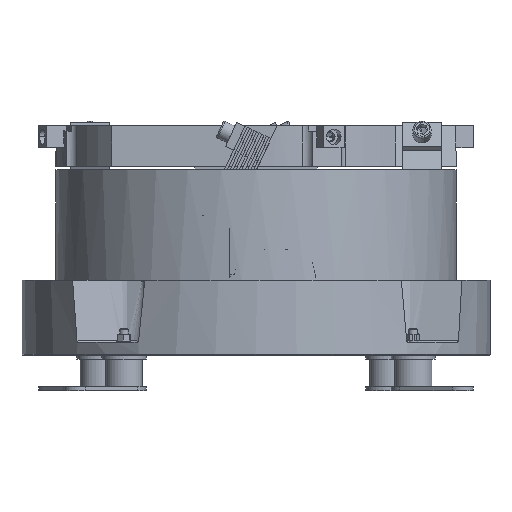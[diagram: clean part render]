
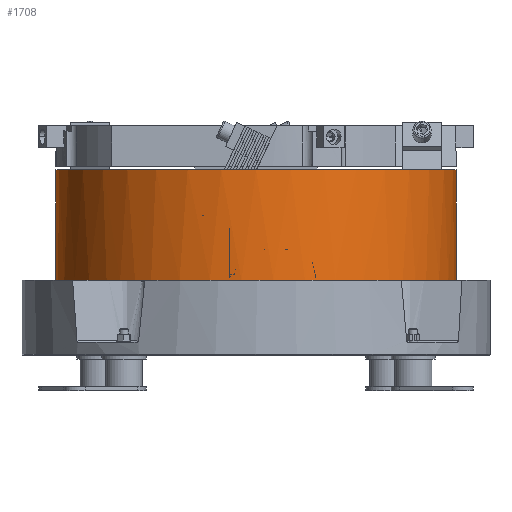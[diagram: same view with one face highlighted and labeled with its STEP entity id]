
A CAD part, front view. The second image highlights one B-rep face of the part: STEP entity #1708.
In plain terms, the highlighted cylindrical face has radius 226.5 mm (diameter 453 mm), a partial arc.
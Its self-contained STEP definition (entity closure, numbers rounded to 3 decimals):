
#427 = LINE ( 'NONE', #20521, #31434 ) ;
#471 = VERTEX_POINT ( 'NONE', #34514 ) ;
#671 = VERTEX_POINT ( 'NONE', #9066 ) ;
#773 = FACE_OUTER_BOUND ( 'NONE', #7620, .T. ) ;
#1485 = CIRCLE ( 'NONE', #17158, 226.5 ) ;
#1708 = ADVANCED_FACE ( 'NONE', ( #773 ), #9996, .T. ) ;
#2386 = EDGE_CURVE ( 'NONE', #36806, #471, #36754, .T. ) ;
#2777 = DIRECTION ( 'NONE',  ( 0., 0., 1. ) ) ;
#2814 = CIRCLE ( 'NONE', #27883, 226.5 ) ;
#2922 = ORIENTED_EDGE ( 'NONE', *, *, #7783, .F. ) ;
#3941 = DIRECTION ( 'NONE',  ( 1., 0., 0. ) ) ;
#4447 = DIRECTION ( 'NONE',  ( 0., 0., -1. ) ) ;
#4688 = DIRECTION ( 'NONE',  ( 0., 0., 1. ) ) ;
#5187 = DIRECTION ( 'NONE',  ( 1., 0., 0. ) ) ;
#5383 = EDGE_CURVE ( 'NONE', #18418, #471, #23139, .T. ) ;
#5951 = CIRCLE ( 'NONE', #8361, 226.5 ) ;
#7620 = EDGE_LOOP ( 'NONE', ( #2922, #21433, #24440, #29615, #18780, #21618, #17831, #33662 ) ) ;
#7783 = EDGE_CURVE ( 'NONE', #24073, #33802, #25526, .T. ) ;
#7802 = DIRECTION ( 'NONE',  ( 0., 0., 1. ) ) ;
#8179 = CARTESIAN_POINT ( 'NONE',  ( -89.005, 16.174, -25. ) ) ;
#8361 = AXIS2_PLACEMENT_3D ( 'NONE', #38008, #32573, #32340 ) ;
#8927 = EDGE_CURVE ( 'NONE', #671, #33990, #2814, .T. ) ;
#8939 = CARTESIAN_POINT ( 'NONE',  ( -315.505, 16.174, 100. ) ) ;
#9066 = CARTESIAN_POINT ( 'NONE',  ( -258.239, -134.364, -25. ) ) ;
#9815 = CARTESIAN_POINT ( 'NONE',  ( -89.005, 16.174, -25. ) ) ;
#9996 = CYLINDRICAL_SURFACE ( 'NONE', #17690, 226.5 ) ;
#10107 = EDGE_CURVE ( 'NONE', #16422, #33802, #5951, .T. ) ;
#10540 = CARTESIAN_POINT ( 'NONE',  ( -89.005, 16.174, -25. ) ) ;
#10577 = DIRECTION ( 'NONE',  ( 1., 0., 0. ) ) ;
#10728 = CIRCLE ( 'NONE', #16574, 226.5 ) ;
#13708 = EDGE_CURVE ( 'NONE', #36806, #33990, #1485, .T. ) ;
#14905 = EDGE_CURVE ( 'NONE', #18418, #16422, #427, .T. ) ;
#16422 = VERTEX_POINT ( 'NONE', #38165 ) ;
#16574 = AXIS2_PLACEMENT_3D ( 'NONE', #9815, #33430, #36423 ) ;
#16768 = CARTESIAN_POINT ( 'NONE',  ( -89.005, 16.174, -25. ) ) ;
#17158 = AXIS2_PLACEMENT_3D ( 'NONE', #22241, #4447, #3941 ) ;
#17690 = AXIS2_PLACEMENT_3D ( 'NONE', #10540, #7802, #37253 ) ;
#17831 = ORIENTED_EDGE ( 'NONE', *, *, #14905, .T. ) ;
#18418 = VERTEX_POINT ( 'NONE', #25341 ) ;
#18513 = CARTESIAN_POINT ( 'NONE',  ( -207.87, -176.63, -25. ) ) ;
#18780 = ORIENTED_EDGE ( 'NONE', *, *, #2386, .T. ) ;
#19209 = CARTESIAN_POINT ( 'NONE',  ( -315.505, 16.174, -25. ) ) ;
#19731 = DIRECTION ( 'NONE',  ( 0., 0., 1. ) ) ;
#20521 = CARTESIAN_POINT ( 'NONE',  ( 137.495, 16.174, -25. ) ) ;
#20936 = VECTOR ( 'NONE', #28838, 1000. ) ;
#21433 = ORIENTED_EDGE ( 'NONE', *, *, #35786, .F. ) ;
#21618 = ORIENTED_EDGE ( 'NONE', *, *, #5383, .F. ) ;
#22241 = CARTESIAN_POINT ( 'NONE',  ( -89.005, 16.174, -25. ) ) ;
#23139 = CIRCLE ( 'NONE', #32637, 226.5 ) ;
#23303 = CARTESIAN_POINT ( 'NONE',  ( -315.505, 16.174, -25. ) ) ;
#23930 = AXIS2_PLACEMENT_3D ( 'NONE', #16768, #19731, #37261 ) ;
#24073 = VERTEX_POINT ( 'NONE', #19209 ) ;
#24440 = ORIENTED_EDGE ( 'NONE', *, *, #8927, .T. ) ;
#25341 = CARTESIAN_POINT ( 'NONE',  ( 137.495, 16.174, -25. ) ) ;
#25526 = LINE ( 'NONE', #23303, #20936 ) ;
#27883 = AXIS2_PLACEMENT_3D ( 'NONE', #8179, #4688, #5187 ) ;
#28838 = DIRECTION ( 'NONE',  ( 0., 0., 1. ) ) ;
#29615 = ORIENTED_EDGE ( 'NONE', *, *, #13708, .F. ) ;
#31112 = CARTESIAN_POINT ( 'NONE',  ( -89.005, 16.174, -25. ) ) ;
#31369 = DIRECTION ( 'NONE',  ( 0., 0., -1. ) ) ;
#31434 = VECTOR ( 'NONE', #2777, 1000. ) ;
#32340 = DIRECTION ( 'NONE',  ( 1., 0., 0. ) ) ;
#32573 = DIRECTION ( 'NONE',  ( 0., 0., -1. ) ) ;
#32637 = AXIS2_PLACEMENT_3D ( 'NONE', #31112, #31369, #10577 ) ;
#33360 = CARTESIAN_POINT ( 'NONE',  ( 61.534, -153.06, -25. ) ) ;
#33430 = DIRECTION ( 'NONE',  ( 0., 0., -1. ) ) ;
#33662 = ORIENTED_EDGE ( 'NONE', *, *, #10107, .T. ) ;
#33802 = VERTEX_POINT ( 'NONE', #8939 ) ;
#33990 = VERTEX_POINT ( 'NONE', #18513 ) ;
#34514 = CARTESIAN_POINT ( 'NONE',  ( 103.799, -102.69, -25. ) ) ;
#35786 = EDGE_CURVE ( 'NONE', #671, #24073, #10728, .T. ) ;
#36423 = DIRECTION ( 'NONE',  ( 1., 0., 0. ) ) ;
#36754 = CIRCLE ( 'NONE', #23930, 226.5 ) ;
#36806 = VERTEX_POINT ( 'NONE', #33360 ) ;
#37253 = DIRECTION ( 'NONE',  ( 1., 0., 0. ) ) ;
#37261 = DIRECTION ( 'NONE',  ( 1., 0., 0. ) ) ;
#38008 = CARTESIAN_POINT ( 'NONE',  ( -89.005, 16.174, 100. ) ) ;
#38165 = CARTESIAN_POINT ( 'NONE',  ( 137.495, 16.174, 100. ) ) ;
